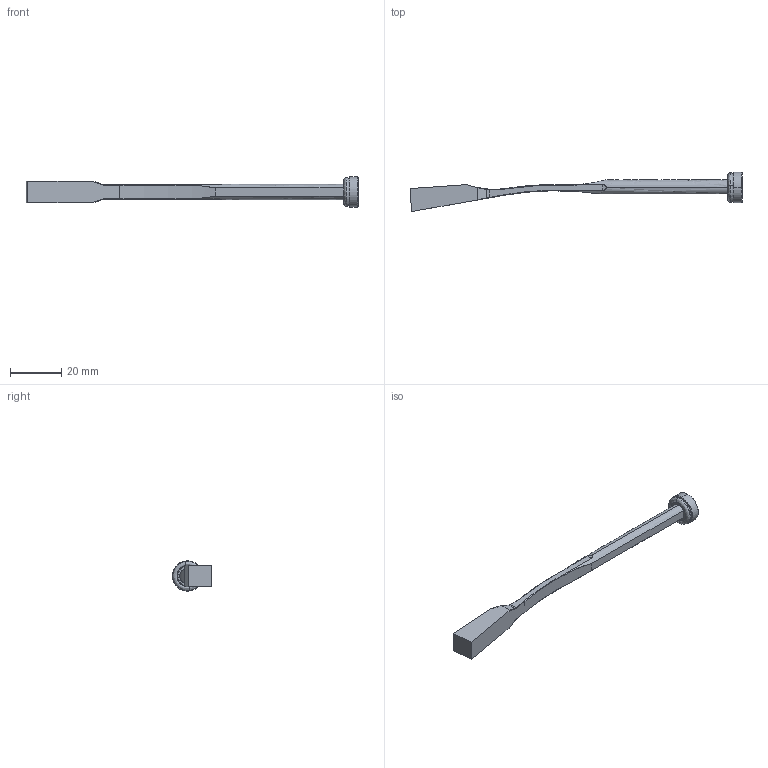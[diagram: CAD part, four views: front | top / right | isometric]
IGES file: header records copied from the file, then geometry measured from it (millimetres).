
Start section: START RECORD GO HERE.
Global section: file name: pw060822_ejection.igs; native system: DASSAULT SYSTEMES CATIA V5 R20 - www.3ds.com; preprocessor: CATIA Version 5 Release 20 ; author: Utente; organization: NB04-ASUS; date: 20201108.135012; units: millimetre
Bounding box: 129.5 x 15.28 x 11.8 mm (x, y, z)
Surface area: 3976.4 mm2 (no closed solid volume)
Topology: 0 solids, 0 shells, 97 faces, 438 edges, 434 vertices
Faces by surface type: revolution 59, plane 32, bspline 6
